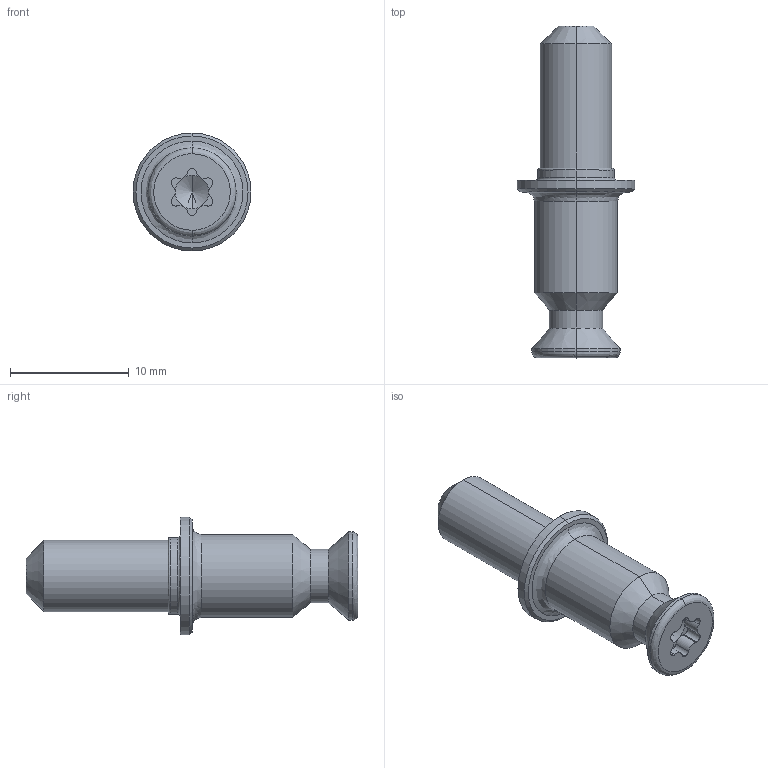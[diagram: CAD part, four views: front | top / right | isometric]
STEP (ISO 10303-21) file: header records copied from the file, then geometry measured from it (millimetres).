
FILE_DESCRIPTION (( 'STEP AP203' ), '1' );
FILE_NAME ('QS022-EF-M6.STEP', '2017-06-07T07:35:56', ( '' ), ( '' ), 'SwSTEP 2.0', 'SolidWorks 2017', '' );
FILE_SCHEMA (( 'CONFIG_CONTROL_DESIGN' ));
Length unit declared in the file: millimetre
Products named in the file (1): QS022-EF-M6
Bounding box: 9.95 x 28 x 9.95 mm (x, y, z)
Volume: 870.7 mm3; surface area: 1130.2 mm2
Topology: 2 solids, 2 shells, 75 faces, 173 edges, 101 vertices
Faces by surface type: cylinder 31, cone 18, plane 18, bspline 8
Entity records: 2354 total; most frequent: CARTESIAN_POINT 592, DIRECTION 387, ORIENTED_EDGE 334, EDGE_CURVE 167, AXIS2_PLACEMENT_3D 160, VERTEX_POINT 101, CIRCLE 92, EDGE_LOOP 80
